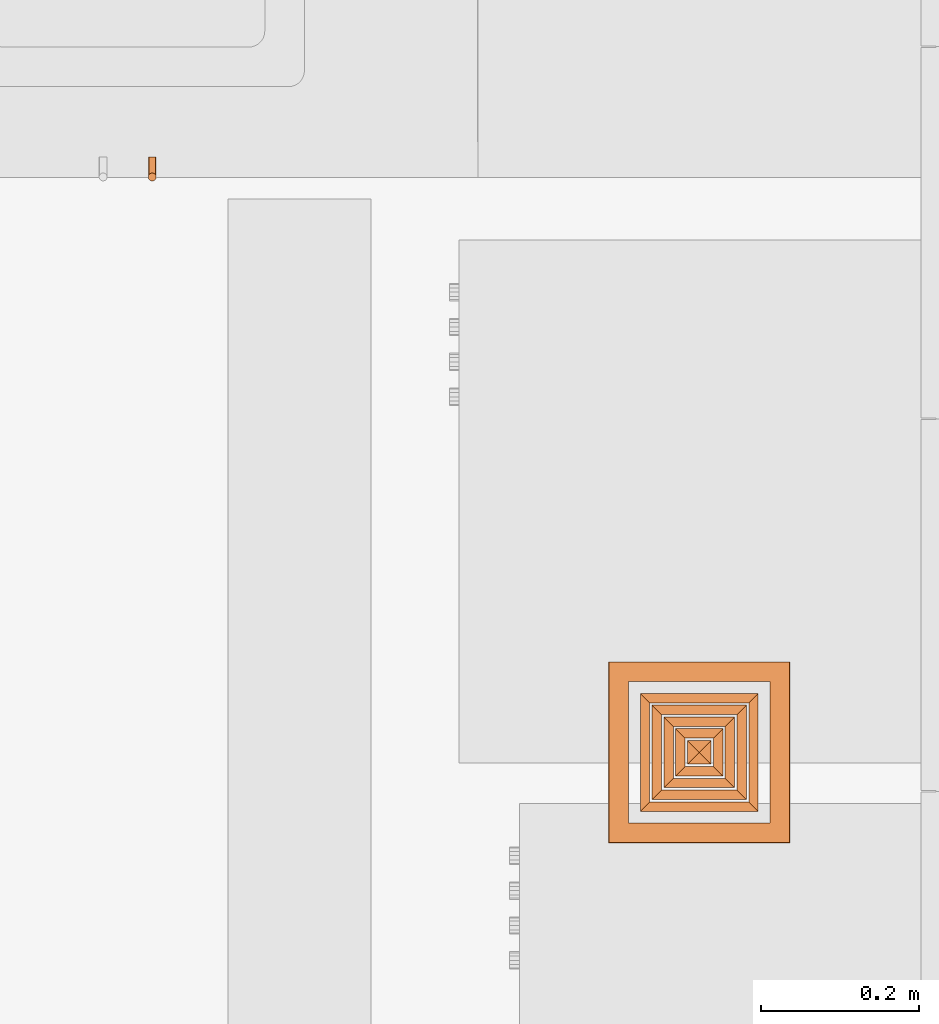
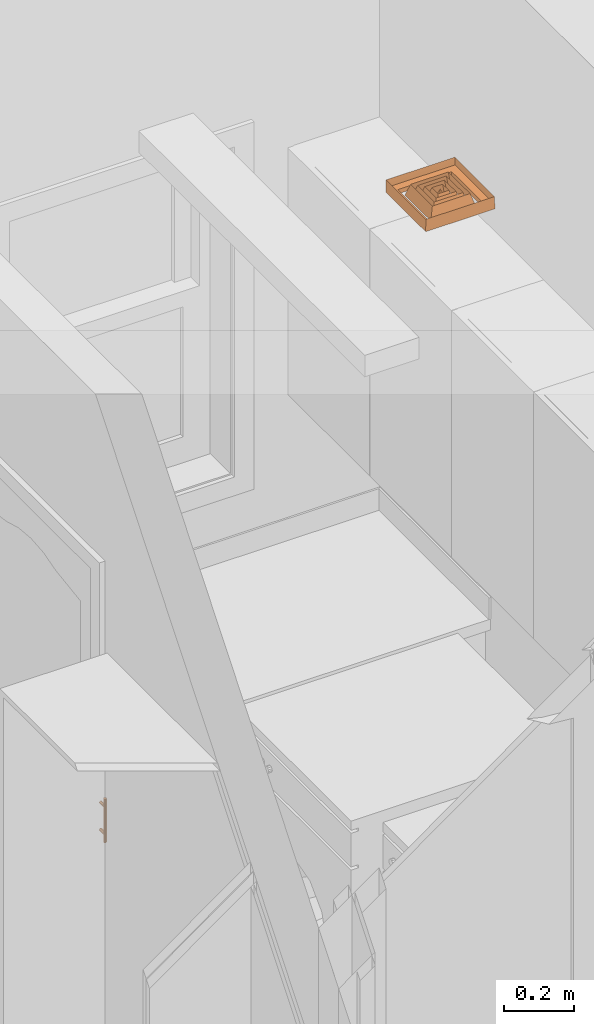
# One storey, part 76 of 77: 2 proxies.
"""IFC2X3 building model written with IfcOpenShell, lengths in inches."""

from ifc_helpers import new_model, entity, si_unit, converted_unit, derived_unit, money_unit, direction, frame, origin_with_axes, place, context, subcontext, project, spatial, open_shell, faceted_brep, surface_model, type_object, element, save


model = new_model("IFC2X3")

# Units and contexts
model_context = context("Model", 3, precision=0.000393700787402, world=origin_with_axes(), true_north=direction((0.0, 1.0)))
body_context = subcontext(model_context, "Body", "Model", "MODEL_VIEW")
ifc_project = project(units=[converted_unit("LENGTHUNIT", "INCH", entity("IfcPositiveLengthMeasure", 0.0254), si_unit("LENGTHUNIT", "METRE"), dimensions=[1, 0, 0, 0, 0, 0, 0]), converted_unit("AREAUNIT", "SQUARE_FOOT", entity("IfcPositiveLengthMeasure", 0.09290304), si_unit("AREAUNIT", "SQUARE_METRE"), dimensions=[2, 0, 0, 0, 0, 0, 0]), si_unit("PLANEANGLEUNIT", "RADIAN"), si_unit("SOLIDANGLEUNIT", "STERADIAN"), money_unit("USD"), converted_unit("TIMEUNIT", "Year", entity("IfcTimeMeasure", 31556926.0), si_unit("TIMEUNIT", "SECOND"), dimensions=[0, 0, 1, 0, 0, 0, 0]), si_unit("MASSUNIT", "GRAM", prefix="KILO"), si_unit("THERMODYNAMICTEMPERATUREUNIT", "DEGREE_CELSIUS"), si_unit("LUMINOUSINTENSITYUNIT", "LUMEN"), si_unit("ENERGYUNIT", "JOULE", prefix="MEGA"), derived_unit("THERMALCONDUCTANCEUNIT", [(si_unit("POWERUNIT", "WATT"), 1), (si_unit("LENGTHUNIT", "METRE"), -1), (si_unit("THERMODYNAMICTEMPERATUREUNIT", "KELVIN"), -1)]), derived_unit("SPECIFICHEATCAPACITYUNIT", [(si_unit("ENERGYUNIT", "JOULE"), 1), (si_unit("MASSUNIT", "GRAM", prefix="KILO"), -1), (si_unit("THERMODYNAMICTEMPERATUREUNIT", "KELVIN"), -1)]), derived_unit("MASSDENSITYUNIT", [(si_unit("MASSUNIT", "GRAM", prefix="KILO"), 1), (si_unit("VOLUMEUNIT", "CUBIC_METRE"), -1)])], contexts=[model_context])

# Site, building, storey
site_placement = place(None, origin_with_axes())
site = spatial("IfcSite", under=ifc_project, at=site_placement, Name="Site", CompositionType="ELEMENT")
building_placement = place(site_placement, origin_with_axes())
building = spatial("IfcBuilding", under=site, at=building_placement, Name="Building", CompositionType="ELEMENT")
storey_placement = place(building_placement, frame((0.0, 0.0, 127.952755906), z_axis=(0.0, 0.0, 1.0), x_axis=(1.0, 0.0, 0.0)))
storey = spatial("IfcBuildingStorey", under=building, at=storey_placement, Name="Second Floor", CompositionType="ELEMENT", Elevation=127.953)

# Proxies
building_element_proxy_type_1 = type_object("IfcBuildingElementProxyType", Name="MISSING", PredefinedType="NOTDEFINED")
proxy_1_placement = place(storey_placement, frame((650.585782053, 581.016470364, 1.28152918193), z_axis=(0.0, 0.0, 1.0), x_axis=(1.0, 0.0, 0.0)))
element("IfcBuildingElementProxy", 1, at=proxy_1_placement, inside=storey, type_object=building_element_proxy_type_1, Name="FU - 007", context=body_context, shape_type="Brep", body=[
    faceted_brep([(18.5275222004, -25.0184346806, 21.5427421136), (18.5364031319, -25.0515787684, 21.5427421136), (18.5364031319, -25.0515787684, 27.5427421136), (18.5275222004, -25.0184346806, 27.5427421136), (18.5245316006, -24.9842519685, 21.5427421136), (18.5275222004, -24.9500692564, 21.5427421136), (18.5364031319, -24.9169251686, 21.5427421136), (18.5509045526, -24.8858267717, 21.5427421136), (18.5705858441, -24.8577189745, 21.5427421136), (18.5948490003, -24.8334558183, 21.5427421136), (18.6229567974, -24.8137745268, 21.5427421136), (18.6540551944, -24.7992731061, 21.5427421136), (18.6871992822, -24.7903921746, 21.5427421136), (18.7213819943, -24.7874015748, 21.5427421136), (18.7555647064, -24.7903921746, 21.5427421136), (18.7887087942, -24.7992731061, 21.5427421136), (18.8198071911, -24.8137745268, 21.5427421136), (18.8479149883, -24.8334558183, 21.5427421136), (18.8721781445, -24.8577189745, 21.5427421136), (18.891859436, -24.8858267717, 21.5427421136), (18.9063608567, -24.9169251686, 21.5427421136), (18.9152417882, -24.9500692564, 21.5427421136), (18.918232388, -24.9842519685, 21.5427421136), (18.9152417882, -25.0184346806, 21.5427421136), (18.9063608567, -25.0515787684, 21.5427421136), (18.891859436, -25.0826771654, 21.5427421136), (18.8721781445, -25.1107849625, 21.5427421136), (18.8479149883, -25.1350481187, 21.5427421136), (18.8198071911, -25.1547294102, 21.5427421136), (18.7887087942, -25.1692308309, 21.5427421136), (18.7555647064, -25.1781117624, 21.5427421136), (18.7213819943, -25.1811023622, 21.5427421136), (18.6871992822, -25.1781117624, 21.5427421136), (18.6540551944, -25.1692308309, 21.5427421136), (18.6229567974, -25.1547294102, 21.5427421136), (18.5948490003, -25.1350481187, 21.5427421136), (18.5705858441, -25.1107849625, 21.5427421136), (18.5509045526, -25.0826771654, 21.5427421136), (18.5509045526, -25.0826771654, 27.5427421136), (18.5245316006, -24.9842519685, 27.5427421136), (18.5705858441, -25.1107849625, 27.5427421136), (18.5948490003, -25.1350481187, 27.5427421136), (18.6229567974, -25.1547294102, 27.5427421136), (18.6540551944, -25.1692308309, 27.5427421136), (18.6871992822, -25.1781117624, 27.5427421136), (18.7213819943, -25.1811023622, 27.5427421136), (18.7555647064, -25.1781117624, 27.5427421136), (18.7887087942, -25.1692308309, 27.5427421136), (18.8198071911, -25.1547294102, 27.5427421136), (18.8479149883, -25.1350481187, 27.5427421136), (18.8721781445, -25.1107849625, 27.5427421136), (18.891859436, -25.0826771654, 27.5427421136), (18.9063608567, -25.0515787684, 27.5427421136), (18.9152417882, -25.0184346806, 27.5427421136), (18.918232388, -24.9842519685, 27.5427421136), (18.9152417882, -24.9500692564, 27.5427421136), (18.9063608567, -24.9169251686, 27.5427421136), (18.891859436, -24.8858267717, 27.5427421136), (18.8721781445, -24.8577189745, 27.5427421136), (18.8479149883, -24.8334558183, 27.5427421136), (18.8198071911, -24.8137745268, 27.5427421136), (18.7887087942, -24.7992731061, 27.5427421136), (18.7555647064, -24.7903921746, 27.5427421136), (18.7213819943, -24.7874015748, 27.5427421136), (18.6871992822, -24.7903921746, 27.5427421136), (18.6540551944, -24.7992731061, 27.5427421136), (18.6229567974, -24.8137745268, 27.5427421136), (18.5948490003, -24.8334558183, 27.5427421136), (18.5705858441, -24.8577189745, 27.5427421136), (18.5509045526, -24.8858267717, 27.5427421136), (18.5364031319, -24.9169251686, 27.5427421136), (18.5275222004, -24.9500692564, 27.5427421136), (18.5245316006, -24.9842519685, 26.4177421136), (18.5245316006, -24.9842519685, 22.6677421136), (18.5275222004, -24.9500692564, 26.4519248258), (18.5275222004, -24.9500692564, 26.3835594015), (18.5275222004, -24.9500692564, 22.7019248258), (18.5275222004, -24.9500692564, 22.6335594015), (18.5364031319, -24.9169251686, 26.4850689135), (18.5364031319, -24.9169251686, 26.3504153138), (18.5364031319, -24.9169251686, 22.7350689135), (18.5364031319, -24.9169251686, 22.6004153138), (18.5509045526, -24.8858267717, 26.5161673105), (18.5509045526, -24.8858267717, 26.3193169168), (18.5509045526, -24.8858267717, 22.7661673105), (18.5509045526, -24.8858267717, 22.5693169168), (18.5705858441, -24.8577189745, 26.5442751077), (18.5705858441, -24.8577189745, 26.2912091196), (18.5705858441, -24.8577189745, 22.7942751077), (18.5705858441, -24.8577189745, 22.5412091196), (18.5948490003, -24.8334558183, 26.5685382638), (18.5948490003, -24.8334558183, 26.2669459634), (18.5948490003, -24.8334558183, 22.8185382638), (18.5948490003, -24.8334558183, 22.5169459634), (18.6229567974, -24.8137745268, 26.5882195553), (18.6229567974, -24.8137745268, 26.2472646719), (18.6229567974, -24.8137745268, 22.8382195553), (18.6229567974, -24.8137745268, 22.4972646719), (18.6540551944, -24.7992731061, 26.602720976), (18.6540551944, -24.7992731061, 26.2327632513), (18.6540551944, -24.7992731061, 22.852720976), (18.6540551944, -24.7992731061, 22.4827632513), (18.6871992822, -24.7903921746, 26.6116019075), (18.6871992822, -24.7903921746, 26.2238823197), (18.6871992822, -24.7903921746, 22.8616019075), (18.6871992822, -24.7903921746, 22.4738823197), (18.7213819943, -24.7874015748, 26.6145925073), (18.7213819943, -24.7874015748, 26.2208917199), (18.7213819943, -24.7874015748, 22.8645925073), (18.7213819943, -24.7874015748, 22.4708917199), (18.7555647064, -24.7903921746, 26.6116019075), (18.7555647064, -24.7903921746, 26.2238823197), (18.7555647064, -24.7903921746, 22.8616019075), (18.7555647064, -24.7903921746, 22.4738823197), (18.7887087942, -24.7992731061, 26.602720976), (18.7887087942, -24.7992731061, 26.2327632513), (18.7887087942, -24.7992731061, 22.852720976), (18.7887087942, -24.7992731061, 22.4827632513), (18.8198071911, -24.8137745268, 26.5882195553), (18.8198071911, -24.8137745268, 26.2472646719), (18.8198071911, -24.8137745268, 22.8382195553), (18.8198071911, -24.8137745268, 22.4972646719), (18.8479149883, -24.8334558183, 22.5169459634), (18.8479149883, -24.8334558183, 26.5685382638), (18.8479149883, -24.8334558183, 26.2669459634), (18.8479149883, -24.8334558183, 22.8185382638), (18.8721781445, -24.8577189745, 26.5442751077), (18.8721781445, -24.8577189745, 26.2912091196), (18.8721781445, -24.8577189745, 22.7942751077), (18.8721781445, -24.8577189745, 22.5412091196), (18.891859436, -24.8858267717, 26.5161673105), (18.891859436, -24.8858267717, 26.3193169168), (18.891859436, -24.8858267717, 22.7661673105), (18.891859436, -24.8858267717, 22.5693169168), (18.9063608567, -24.9169251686, 26.4850689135), (18.9063608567, -24.9169251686, 26.3504153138), (18.9063608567, -24.9169251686, 22.7350689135), (18.9063608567, -24.9169251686, 22.6004153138), (18.9152417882, -24.9500692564, 22.6335594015), (18.9152417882, -24.9500692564, 26.4519248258), (18.9152417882, -24.9500692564, 26.3835594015), (18.9152417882, -24.9500692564, 22.7019248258), (18.918232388, -24.9842519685, 26.4177421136), (18.918232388, -24.9842519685, 22.6677421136)], [[[0, 1, 2, 3]], [[0, 4, 5, 6, 7, 8, 9, 10, 11, 12, 13, 14, 15, 16, 17, 18, 19, 20, 21, 22, 23, 24, 25, 26, 27, 28, 29, 30, 31, 32, 33, 34, 35, 36, 37, 1]], [[1, 37, 38, 2]], [[39, 3, 2, 38, 40, 41, 42, 43, 44, 45, 46, 47, 48, 49, 50, 51, 52, 53, 54, 55, 56, 57, 58, 59, 60, 61, 62, 63, 64, 65, 66, 67, 68, 69, 70, 71]], [[4, 0, 3, 39, 72, 73]], [[4, 73, 72, 39, 71, 74, 75, 76, 77, 5]], [[5, 77, 76, 75, 74, 71, 70, 78, 79, 80, 81, 6]], [[6, 81, 80, 79, 78, 70, 69, 82, 83, 84, 85, 7]], [[8, 7, 85, 84, 83, 82, 69, 68, 86, 87, 88, 89]], [[8, 89, 88, 87, 86, 68, 67, 90, 91, 92, 93, 9]], [[9, 93, 92, 91, 90, 67, 66, 94, 95, 96, 97, 10]], [[10, 97, 96, 95, 94, 66, 65, 98, 99, 100, 101, 11]], [[11, 101, 100, 99, 98, 65, 64, 102, 103, 104, 105, 12]], [[12, 105, 104, 103, 102, 64, 63, 106, 107, 108, 109, 13]], [[13, 109, 108, 107, 106, 63, 62, 110, 111, 112, 113, 14]], [[14, 113, 112, 111, 110, 62, 61, 114, 115, 116, 117, 15]], [[16, 15, 117, 116, 115, 114, 61, 60, 118, 119, 120, 121]], [[122, 17, 16, 121, 120, 119, 118, 60, 59, 123, 124, 125]], [[17, 122, 125, 124, 123, 59, 58, 126, 127, 128, 129, 18]], [[18, 129, 128, 127, 126, 58, 57, 130, 131, 132, 133, 19]], [[19, 133, 132, 131, 130, 57, 56, 134, 135, 136, 137, 20]], [[138, 21, 20, 137, 136, 135, 134, 56, 55, 139, 140, 141]], [[21, 138, 141, 140, 139, 55, 54, 142, 143, 22]], [[23, 22, 143, 142, 54, 53]], [[24, 23, 53, 52]], [[25, 24, 52, 51]], [[26, 25, 51, 50]], [[49, 27, 26, 50]], [[28, 27, 49, 48]], [[29, 28, 48, 47]], [[30, 29, 47, 46]], [[31, 30, 46, 45]], [[32, 31, 45, 44]], [[33, 32, 44, 43]], [[34, 33, 43, 42]], [[35, 34, 42, 41]], [[40, 36, 35, 41]], [[37, 36, 40, 38]]]),
    faceted_brep([(18.5275222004, -24.9842519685, 22.6335594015), (18.5245316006, -24.9842519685, 22.6677421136), (18.5245316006, -24.0, 22.6677421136), (18.5275222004, -24.0, 22.6335594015), (18.5275222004, -24.9500692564, 22.6335594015), (18.5364031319, -24.9842519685, 22.6004153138), (18.5509045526, -24.9842519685, 22.5693169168), (18.5705858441, -24.9842519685, 22.5412091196), (18.5948490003, -24.9842519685, 22.5169459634), (18.6229567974, -24.9842519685, 22.4972646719), (18.6540551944, -24.9842519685, 22.4827632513), (18.6871992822, -24.9842519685, 22.4738823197), (18.7213819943, -24.9842519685, 22.4708917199), (18.7555647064, -24.9842519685, 22.4738823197), (18.7887087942, -24.9842519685, 22.4827632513), (18.8198071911, -24.9842519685, 22.4972646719), (18.8479149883, -24.9842519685, 22.5169459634), (18.8721781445, -24.9842519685, 22.5412091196), (18.891859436, -24.9842519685, 22.5693169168), (18.9063608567, -24.9842519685, 22.6004153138), (18.9152417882, -24.9842519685, 22.6335594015), (18.918232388, -24.9842519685, 22.6677421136), (18.9152417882, -24.9842519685, 22.7019248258), (18.9063608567, -24.9842519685, 22.7350689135), (18.891859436, -24.9842519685, 22.7661673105), (18.8721781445, -24.9842519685, 22.7942751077), (18.8479149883, -24.9842519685, 22.8185382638), (18.8198071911, -24.9842519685, 22.8382195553), (18.7887087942, -24.9842519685, 22.852720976), (18.7555647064, -24.9842519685, 22.8616019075), (18.7213819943, -24.9842519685, 22.8645925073), (18.6871992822, -24.9842519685, 22.8616019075), (18.6540551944, -24.9842519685, 22.852720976), (18.6229567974, -24.9842519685, 22.8382195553), (18.5948490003, -24.9842519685, 22.8185382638), (18.5705858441, -24.9842519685, 22.7942751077), (18.5509045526, -24.9842519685, 22.7661673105), (18.5364031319, -24.9842519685, 22.7350689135), (18.5275222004, -24.9842519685, 22.7019248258), (18.5275222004, -24.9500692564, 22.7019248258), (18.5275222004, -24.0, 22.7019248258), (18.5364031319, -24.0, 22.7350689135), (18.5509045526, -24.0, 22.7661673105), (18.5705858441, -24.0, 22.7942751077), (18.5948490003, -24.0, 22.8185382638), (18.6229567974, -24.0, 22.8382195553), (18.6540551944, -24.0, 22.852720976), (18.6871992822, -24.0, 22.8616019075), (18.7213819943, -24.0, 22.8645925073), (18.7555647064, -24.0, 22.8616019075), (18.7887087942, -24.0, 22.852720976), (18.8198071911, -24.0, 22.8382195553), (18.8479149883, -24.0, 22.8185382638), (18.8721781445, -24.0, 22.7942751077), (18.891859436, -24.0, 22.7661673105), (18.9063608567, -24.0, 22.7350689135), (18.9152417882, -24.0, 22.7019248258), (18.918232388, -24.0, 22.6677421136), (18.9152417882, -24.0, 22.6335594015), (18.9063608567, -24.0, 22.6004153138), (18.891859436, -24.0, 22.5693169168), (18.8721781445, -24.0, 22.5412091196), (18.8479149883, -24.0, 22.5169459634), (18.8198071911, -24.0, 22.4972646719), (18.7887087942, -24.0, 22.4827632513), (18.7555647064, -24.0, 22.4738823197), (18.7213819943, -24.0, 22.4708917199), (18.6871992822, -24.0, 22.4738823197), (18.6540551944, -24.0, 22.4827632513), (18.6229567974, -24.0, 22.4972646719), (18.5948490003, -24.0, 22.5169459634), (18.5705858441, -24.0, 22.5412091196), (18.5509045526, -24.0, 22.5693169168), (18.5364031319, -24.0, 22.6004153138), (18.5364031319, -24.9169251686, 22.6004153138), (18.5509045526, -24.8858267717, 22.5693169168), (18.5705858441, -24.8577189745, 22.5412091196), (18.5948490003, -24.8334558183, 22.5169459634), (18.6229567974, -24.8137745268, 22.4972646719), (18.6540551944, -24.7992731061, 22.4827632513), (18.6871992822, -24.7903921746, 22.4738823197), (18.7213819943, -24.7874015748, 22.4708917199), (18.7555647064, -24.7903921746, 22.4738823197), (18.7887087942, -24.7992731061, 22.4827632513), (18.8198071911, -24.8137745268, 22.4972646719), (18.8479149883, -24.8334558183, 22.5169459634), (18.8721781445, -24.8577189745, 22.5412091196), (18.891859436, -24.8858267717, 22.5693169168), (18.9063608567, -24.9169251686, 22.6004153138), (18.9152417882, -24.9500692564, 22.6335594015), (18.9152417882, -24.9500692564, 22.7019248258), (18.9063608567, -24.9169251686, 22.7350689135), (18.891859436, -24.8858267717, 22.7661673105), (18.8721781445, -24.8577189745, 22.7942751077), (18.8479149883, -24.8334558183, 22.8185382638), (18.8198071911, -24.8137745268, 22.8382195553), (18.7887087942, -24.7992731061, 22.852720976), (18.7555647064, -24.7903921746, 22.8616019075), (18.7213819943, -24.7874015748, 22.8645925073), (18.6871992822, -24.7903921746, 22.8616019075), (18.6540551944, -24.7992731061, 22.852720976), (18.6229567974, -24.8137745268, 22.8382195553), (18.5948490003, -24.8334558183, 22.8185382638), (18.5705858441, -24.8577189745, 22.7942751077), (18.5509045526, -24.8858267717, 22.7661673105), (18.5364031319, -24.9169251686, 22.7350689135)], [[[0, 1, 2, 3, 4]], [[1, 0, 5, 6, 7, 8, 9, 10, 11, 12, 13, 14, 15, 16, 17, 18, 19, 20, 21, 22, 23, 24, 25, 26, 27, 28, 29, 30, 31, 32, 33, 34, 35, 36, 37, 38]], [[1, 38, 39, 40, 2]], [[3, 2, 40, 41, 42, 43, 44, 45, 46, 47, 48, 49, 50, 51, 52, 53, 54, 55, 56, 57, 58, 59, 60, 61, 62, 63, 64, 65, 66, 67, 68, 69, 70, 71, 72, 73]], [[5, 0, 4, 3, 73, 74]], [[6, 5, 74, 73, 72, 75]], [[7, 6, 75, 72, 71, 76]], [[7, 76, 71, 70, 77, 8]], [[8, 77, 70, 69, 78, 9]], [[10, 9, 78, 69, 68, 79]], [[11, 10, 79, 68, 67, 80]], [[12, 11, 80, 67, 66, 81]], [[12, 81, 66, 65, 82, 13]], [[14, 13, 82, 65, 64, 83]], [[15, 14, 83, 64, 63, 84]], [[16, 15, 84, 63, 62, 85]], [[16, 85, 62, 61, 86, 17]], [[18, 17, 86, 61, 60, 87]], [[19, 18, 87, 60, 59, 88]], [[20, 19, 88, 59, 58, 89]], [[21, 20, 89, 58, 57]], [[22, 21, 57, 56, 90]], [[23, 22, 90, 56, 55, 91]], [[24, 23, 91, 55, 54, 92]], [[25, 24, 92, 54, 53, 93]], [[94, 26, 25, 93, 53, 52]], [[27, 26, 94, 52, 51, 95]], [[28, 27, 95, 51, 50, 96]], [[29, 28, 96, 50, 49, 97]], [[98, 30, 29, 97, 49, 48]], [[31, 30, 98, 48, 47, 99]], [[32, 31, 99, 47, 46, 100]], [[33, 32, 100, 46, 45, 101]], [[44, 102, 34, 33, 101, 45]], [[103, 35, 34, 102, 44, 43]], [[36, 35, 103, 43, 42, 104]], [[37, 36, 104, 42, 41, 105]], [[38, 37, 105, 41, 40, 39]]]),
    faceted_brep([(18.5245316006, -24.9842519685, 26.4177421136), (18.5275222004, -24.9842519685, 26.4519248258), (18.5275222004, -24.9500692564, 26.4519248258), (18.5275222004, -24.0, 26.4519248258), (18.5245316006, -24.0, 26.4177421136), (18.5275222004, -24.9842519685, 26.3835594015), (18.5364031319, -24.9842519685, 26.3504153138), (18.5509045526, -24.9842519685, 26.3193169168), (18.5705858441, -24.9842519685, 26.2912091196), (18.5948490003, -24.9842519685, 26.2669459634), (18.6229567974, -24.9842519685, 26.2472646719), (18.6540551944, -24.9842519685, 26.2327632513), (18.6871992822, -24.9842519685, 26.2238823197), (18.7213819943, -24.9842519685, 26.2208917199), (18.7555647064, -24.9842519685, 26.2238823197), (18.7887087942, -24.9842519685, 26.2327632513), (18.8198071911, -24.9842519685, 26.2472646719), (18.8479149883, -24.9842519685, 26.2669459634), (18.8721781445, -24.9842519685, 26.2912091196), (18.891859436, -24.9842519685, 26.3193169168), (18.9063608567, -24.9842519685, 26.3504153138), (18.9152417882, -24.9842519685, 26.3835594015), (18.918232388, -24.9842519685, 26.4177421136), (18.9152417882, -24.9842519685, 26.4519248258), (18.9063608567, -24.9842519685, 26.4850689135), (18.891859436, -24.9842519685, 26.5161673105), (18.8721781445, -24.9842519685, 26.5442751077), (18.8479149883, -24.9842519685, 26.5685382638), (18.8198071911, -24.9842519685, 26.5882195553), (18.7887087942, -24.9842519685, 26.602720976), (18.7555647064, -24.9842519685, 26.6116019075), (18.7213819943, -24.9842519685, 26.6145925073), (18.6871992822, -24.9842519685, 26.6116019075), (18.6540551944, -24.9842519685, 26.602720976), (18.6229567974, -24.9842519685, 26.5882195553), (18.5948490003, -24.9842519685, 26.5685382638), (18.5705858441, -24.9842519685, 26.5442751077), (18.5509045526, -24.9842519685, 26.5161673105), (18.5364031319, -24.9842519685, 26.4850689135), (18.5364031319, -24.9169251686, 26.4850689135), (18.5364031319, -24.0, 26.4850689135), (18.5275222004, -24.0, 26.3835594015), (18.5509045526, -24.0, 26.5161673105), (18.5705858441, -24.0, 26.5442751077), (18.5948490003, -24.0, 26.5685382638), (18.6229567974, -24.0, 26.5882195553), (18.6540551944, -24.0, 26.602720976), (18.6871992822, -24.0, 26.6116019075), (18.7213819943, -24.0, 26.6145925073), (18.7555647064, -24.0, 26.6116019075), (18.7887087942, -24.0, 26.602720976), (18.8198071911, -24.0, 26.5882195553), (18.8479149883, -24.0, 26.5685382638), (18.8721781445, -24.0, 26.5442751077), (18.891859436, -24.0, 26.5161673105), (18.9063608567, -24.0, 26.4850689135), (18.9152417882, -24.0, 26.4519248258), (18.918232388, -24.0, 26.4177421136), (18.9152417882, -24.0, 26.3835594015), (18.9063608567, -24.0, 26.3504153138), (18.891859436, -24.0, 26.3193169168), (18.8721781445, -24.0, 26.2912091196), (18.8479149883, -24.0, 26.2669459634), (18.8198071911, -24.0, 26.2472646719), (18.7887087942, -24.0, 26.2327632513), (18.7555647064, -24.0, 26.2238823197), (18.7213819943, -24.0, 26.2208917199), (18.6871992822, -24.0, 26.2238823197), (18.6540551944, -24.0, 26.2327632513), (18.6229567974, -24.0, 26.2472646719), (18.5948490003, -24.0, 26.2669459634), (18.5705858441, -24.0, 26.2912091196), (18.5509045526, -24.0, 26.3193169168), (18.5364031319, -24.0, 26.3504153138), (18.5275222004, -24.9500692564, 26.3835594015), (18.5364031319, -24.9169251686, 26.3504153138), (18.5509045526, -24.8858267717, 26.3193169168), (18.5705858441, -24.8577189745, 26.2912091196), (18.5948490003, -24.8334558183, 26.2669459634), (18.6229567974, -24.8137745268, 26.2472646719), (18.6540551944, -24.7992731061, 26.2327632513), (18.6871992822, -24.7903921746, 26.2238823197), (18.7213819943, -24.7874015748, 26.2208917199), (18.7555647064, -24.7903921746, 26.2238823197), (18.7887087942, -24.7992731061, 26.2327632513), (18.8198071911, -24.8137745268, 26.2472646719), (18.8479149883, -24.8334558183, 26.2669459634), (18.8721781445, -24.8577189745, 26.2912091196), (18.891859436, -24.8858267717, 26.3193169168), (18.9063608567, -24.9169251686, 26.3504153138), (18.9152417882, -24.9500692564, 26.3835594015), (18.9152417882, -24.9500692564, 26.4519248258), (18.9063608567, -24.9169251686, 26.4850689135), (18.891859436, -24.8858267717, 26.5161673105), (18.8721781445, -24.8577189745, 26.5442751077), (18.8479149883, -24.8334558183, 26.5685382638), (18.8198071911, -24.8137745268, 26.5882195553), (18.7887087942, -24.7992731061, 26.602720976), (18.7555647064, -24.7903921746, 26.6116019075), (18.7213819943, -24.7874015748, 26.6145925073), (18.6871992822, -24.7903921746, 26.6116019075), (18.6540551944, -24.7992731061, 26.602720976), (18.6229567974, -24.8137745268, 26.5882195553), (18.5948490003, -24.8334558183, 26.5685382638), (18.5705858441, -24.8577189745, 26.5442751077), (18.5509045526, -24.8858267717, 26.5161673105)], [[[0, 1, 2, 3, 4]], [[0, 5, 6, 7, 8, 9, 10, 11, 12, 13, 14, 15, 16, 17, 18, 19, 20, 21, 22, 23, 24, 25, 26, 27, 28, 29, 30, 31, 32, 33, 34, 35, 36, 37, 38, 1]], [[1, 38, 39, 40, 3, 2]], [[41, 4, 3, 40, 42, 43, 44, 45, 46, 47, 48, 49, 50, 51, 52, 53, 54, 55, 56, 57, 58, 59, 60, 61, 62, 63, 64, 65, 66, 67, 68, 69, 70, 71, 72, 73]], [[5, 0, 4, 41, 74]], [[6, 5, 74, 41, 73, 75]], [[7, 6, 75, 73, 72, 76]], [[8, 7, 76, 72, 71, 77]], [[9, 8, 77, 71, 70, 78]], [[10, 9, 78, 70, 69, 79]], [[11, 10, 79, 69, 68, 80]], [[12, 11, 80, 68, 67, 81]], [[13, 12, 81, 67, 66, 82]], [[13, 82, 66, 65, 83, 14]], [[15, 14, 83, 65, 64, 84]], [[16, 15, 84, 64, 63, 85]], [[17, 16, 85, 63, 62, 86]], [[17, 86, 62, 61, 87, 18]], [[19, 18, 87, 61, 60, 88]], [[20, 19, 88, 60, 59, 89]], [[21, 20, 89, 59, 58, 90]], [[22, 21, 90, 58, 57]], [[23, 22, 57, 56, 91]], [[24, 23, 91, 56, 55, 92]], [[25, 24, 92, 55, 54, 93]], [[26, 25, 93, 54, 53, 94]], [[27, 26, 94, 53, 52, 95]], [[28, 27, 95, 52, 51, 96]], [[29, 28, 96, 51, 50, 97]], [[30, 29, 97, 50, 49, 98]], [[31, 30, 98, 49, 48, 99]], [[32, 31, 99, 48, 47, 100]], [[33, 32, 100, 47, 46, 101]], [[34, 33, 101, 46, 45, 102]], [[35, 34, 102, 45, 44, 103]], [[36, 35, 103, 44, 43, 104]], [[37, 36, 104, 43, 42, 105]], [[38, 37, 105, 42, 40, 39]]]),
])
building_element_proxy_type_2 = type_object("IfcBuildingElementProxyType", Name="Square Louver Face Ceiling Diffuser 25", PredefinedType="NOTDEFINED")
proxy_2_placement = place(storey_placement, frame((696.489643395, 527.43842231, 119.0), z_axis=(0.0, 0.0, 1.0), x_axis=(1.0, 0.0, 0.0)))
element("IfcBuildingElementProxy", 2, at=proxy_2_placement, inside=storey, type_object=building_element_proxy_type_2, Name="FU - 007", context=body_context, shape_type="SurfaceModel", body=[
    faceted_brep([(4.5, 4.5, 0.0), (-4.5, 4.5, 0.0), (-4.5, 4.5, 0.590551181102), (4.5, 4.5, 0.590551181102), (4.5, -4.5, 0.0), (-4.5, -4.5, 0.0), (3.5157480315, 3.5157480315, 0.0), (-3.5157480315, 3.5157480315, 0.0), (-3.5157480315, -3.5157480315, 0.0), (3.5157480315, -3.5157480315, 0.0), (-4.5, -4.5, 0.590551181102), (4.5, -4.5, 0.590551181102), (3.5157480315, 3.5157480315, 0.590551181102), (3.5157480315, -3.5157480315, 0.590551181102), (-3.5157480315, -3.5157480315, 0.590551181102), (-3.5157480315, 3.5157480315, 0.590551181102)], [[[0, 1, 2, 3]], [[0, 4, 5, 1], [6, 7, 8, 9]], [[1, 5, 10, 2]], [[3, 2, 10, 11], [12, 13, 14, 15]], [[4, 0, 3, 11]], [[5, 4, 11, 10]], [[7, 6, 12, 15]], [[8, 7, 15, 14]], [[9, 8, 14, 13]], [[6, 9, 13, 12]]]),
    surface_model("IfcShellBasedSurfaceModel", [(-4.5, 4.5, 0.590551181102), (-4.5, -4.5, 0.590551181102), (-4.48031496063, -4.48031496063, 1.1811023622), (-4.48031496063, 4.48031496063, 1.1811023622), (4.5, -4.5, 0.590551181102), (4.48031496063, -4.48031496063, 1.1811023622), (4.5, 4.5, 0.590551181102), (4.48031496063, 4.48031496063, 1.1811023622)], [open_shell([[[0, 1, 2, 3]], [[1, 4, 5, 2]], [[6, 0, 3, 7]], [[4, 6, 7, 5]]])]),
    faceted_brep([(0.585958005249, 0.585958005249, 0.0), (-0.585958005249, 0.585958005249, 0.0), (0.0, 0.0, 1.57480314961), (0.585958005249, -0.585958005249, 0.0), (-0.585958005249, -0.585958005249, 0.0)], [[[0, 1, 2]], [[0, 3, 4, 1]], [[1, 4, 2]], [[3, 0, 2]], [[4, 3, 2]]]),
    surface_model("IfcShellBasedSurfaceModel", [(1.1719160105, 1.1719160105, 0.0), (-1.1719160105, 1.1719160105, 0.0), (-0.70406824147, 0.70406824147, 1.57480314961), (0.70406824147, 0.70406824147, 1.57480314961), (-1.1719160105, -1.1719160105, 0.0), (-0.70406824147, -0.70406824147, 1.57480314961), (1.1719160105, -1.1719160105, 0.0), (0.70406824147, -0.70406824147, 1.57480314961)], [open_shell([[[0, 1, 2, 3]], [[1, 4, 5, 2]], [[6, 0, 3, 7]], [[4, 6, 7, 5]]])]),
    surface_model("IfcShellBasedSurfaceModel", [(1.75787401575, 1.75787401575, 0.0), (-1.75787401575, 1.75787401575, 0.0), (-1.29002624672, 1.29002624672, 1.57480314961), (1.29002624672, 1.29002624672, 1.57480314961), (-1.75787401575, -1.75787401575, 0.0), (-1.29002624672, -1.29002624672, 1.57480314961), (1.75787401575, -1.75787401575, 0.0), (1.29002624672, -1.29002624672, 1.57480314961)], [open_shell([[[0, 1, 2, 3]], [[1, 4, 5, 2]], [[6, 0, 3, 7]], [[4, 6, 7, 5]]])]),
    surface_model("IfcShellBasedSurfaceModel", [(2.343832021, 2.343832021, 0.0), (-2.343832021, 2.343832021, 0.0), (-1.87598425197, 1.87598425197, 1.57480314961), (1.87598425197, 1.87598425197, 1.57480314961), (-2.343832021, -2.343832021, 0.0), (-1.87598425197, -1.87598425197, 1.57480314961), (2.343832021, -2.343832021, 0.0), (1.87598425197, -1.87598425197, 1.57480314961)], [open_shell([[[0, 1, 2, 3]], [[1, 4, 5, 2]], [[6, 0, 3, 7]], [[4, 6, 7, 5]]])]),
    surface_model("IfcShellBasedSurfaceModel", [(2.92979002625, 2.92979002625, 0.0), (-2.92979002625, 2.92979002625, 0.0), (-2.46194225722, 2.46194225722, 1.57480314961), (2.46194225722, 2.46194225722, 1.57480314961), (-2.92979002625, -2.92979002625, 0.0), (-2.46194225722, -2.46194225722, 1.57480314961), (2.92979002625, -2.92979002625, 0.0), (2.46194225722, -2.46194225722, 1.57480314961)], [open_shell([[[0, 1, 2, 3]], [[1, 4, 5, 2]], [[6, 0, 3, 7]], [[4, 6, 7, 5]]])]),
    surface_model("IfcShellBasedSurfaceModel", [(4.48031496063, -4.48031496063, 1.1811023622), (4.48031496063, 4.48031496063, 1.1811023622), (4.48031496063, 4.48031496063, 1.6811023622), (4.48031496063, -4.48031496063, 1.6811023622), (-4.48031496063, 4.48031496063, 1.1811023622), (-4.48031496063, 4.48031496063, 1.6811023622), (-4.48031496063, -4.48031496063, 1.1811023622), (-4.48031496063, -4.48031496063, 1.6811023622)], [open_shell([[[0, 1, 2, 3]], [[1, 4, 5, 2]], [[6, 0, 3, 7]], [[4, 6, 7, 5]]])]),
])

save(model, "model.ifc")
